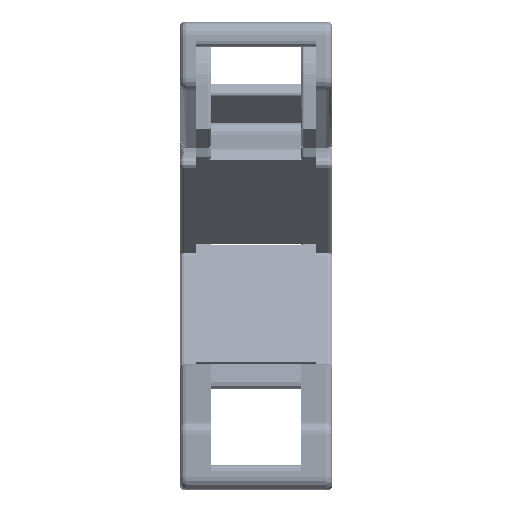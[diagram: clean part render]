
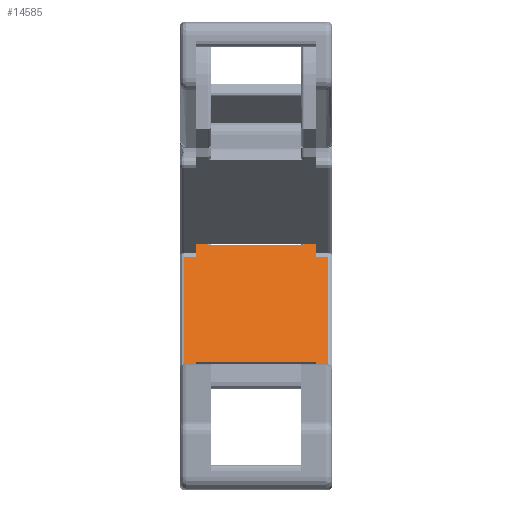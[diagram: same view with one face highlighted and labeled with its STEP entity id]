
A CAD part, left-side view. The second image highlights one B-rep face of the part: STEP entity #14585.
In plain terms, the highlighted planar face has unit normal (-0.934, 0, 0.358).
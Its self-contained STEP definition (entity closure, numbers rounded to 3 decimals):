
#2842=PLANE('',#178081);
#14585=ADVANCED_FACE('',(#26892),#2842,.F.);
#26892=FACE_OUTER_BOUND('',#35845,.T.);
#35845=EDGE_LOOP('',(#52403,#52404,#52405,#52406,#52407,#52408,#52409,#52410,
#52411,#52412,#52413,#52414,#52415,#52416,#52417,#52418));
#52403=ORIENTED_EDGE('',*,*,#118032,.T.);
#52404=ORIENTED_EDGE('',*,*,#118033,.T.);
#52405=ORIENTED_EDGE('',*,*,#118028,.F.);
#52406=ORIENTED_EDGE('',*,*,#118034,.T.);
#52407=ORIENTED_EDGE('',*,*,#118035,.F.);
#52408=ORIENTED_EDGE('',*,*,#118036,.F.);
#52409=ORIENTED_EDGE('',*,*,#118037,.T.);
#52410=ORIENTED_EDGE('',*,*,#118038,.T.);
#52411=ORIENTED_EDGE('',*,*,#118039,.T.);
#52412=ORIENTED_EDGE('',*,*,#118008,.F.);
#52413=ORIENTED_EDGE('',*,*,#118040,.T.);
#52414=ORIENTED_EDGE('',*,*,#118041,.T.);
#52415=ORIENTED_EDGE('',*,*,#118042,.T.);
#52416=ORIENTED_EDGE('',*,*,#118043,.T.);
#52417=ORIENTED_EDGE('',*,*,#118044,.T.);
#52418=ORIENTED_EDGE('',*,*,#118045,.F.);
#101583=VERTEX_POINT('',#238716);
#101584=VERTEX_POINT('',#238717);
#101602=VERTEX_POINT('',#238758);
#101603=VERTEX_POINT('',#238759);
#101606=VERTEX_POINT('',#238767);
#101607=VERTEX_POINT('',#238768);
#101608=VERTEX_POINT('',#238771);
#101609=VERTEX_POINT('',#238773);
#101610=VERTEX_POINT('',#238775);
#101611=VERTEX_POINT('',#238777);
#101612=VERTEX_POINT('',#238779);
#101613=VERTEX_POINT('',#238782);
#101614=VERTEX_POINT('',#238784);
#101615=VERTEX_POINT('',#238786);
#101616=VERTEX_POINT('',#238788);
#101617=VERTEX_POINT('',#238790);
#118008=EDGE_CURVE('',#101583,#101584,#142751,.T.);
#118028=EDGE_CURVE('',#101602,#101603,#142762,.T.);
#118032=EDGE_CURVE('',#101606,#101607,#142764,.T.);
#118033=EDGE_CURVE('',#101607,#101603,#142765,.T.);
#118034=EDGE_CURVE('',#101602,#101608,#142766,.T.);
#118035=EDGE_CURVE('',#101609,#101608,#142767,.T.);
#118036=EDGE_CURVE('',#101610,#101609,#142768,.T.);
#118037=EDGE_CURVE('',#101610,#101611,#142769,.T.);
#118038=EDGE_CURVE('',#101611,#101612,#142770,.T.);
#118039=EDGE_CURVE('',#101612,#101584,#142771,.T.);
#118040=EDGE_CURVE('',#101583,#101613,#142772,.T.);
#118041=EDGE_CURVE('',#101613,#101614,#142773,.T.);
#118042=EDGE_CURVE('',#101614,#101615,#142774,.T.);
#118043=EDGE_CURVE('',#101615,#101616,#142775,.T.);
#118044=EDGE_CURVE('',#101616,#101617,#142776,.T.);
#118045=EDGE_CURVE('',#101606,#101617,#142777,.T.);
#142751=LINE('',#238715,#159843);
#142762=LINE('',#238757,#159854);
#142764=LINE('',#238766,#159856);
#142765=LINE('',#238769,#159857);
#142766=LINE('',#238770,#159858);
#142767=LINE('',#238772,#159859);
#142768=LINE('',#238774,#159860);
#142769=LINE('',#238776,#159861);
#142770=LINE('',#238778,#159862);
#142771=LINE('',#238780,#159863);
#142772=LINE('',#238781,#159864);
#142773=LINE('',#238783,#159865);
#142774=LINE('',#238785,#159866);
#142775=LINE('',#238787,#159867);
#142776=LINE('',#238789,#159868);
#142777=LINE('',#238791,#159869);
#159843=VECTOR('',#192129,1.);
#159854=VECTOR('',#192164,1.);
#159856=VECTOR('',#192172,1.);
#159857=VECTOR('',#192173,1.);
#159858=VECTOR('',#192174,1.);
#159859=VECTOR('',#192175,1.);
#159860=VECTOR('',#192176,1.);
#159861=VECTOR('',#192177,1.);
#159862=VECTOR('',#192178,1.);
#159863=VECTOR('',#192179,1.);
#159864=VECTOR('',#192180,1.);
#159865=VECTOR('',#192181,1.);
#159866=VECTOR('',#192182,1.);
#159867=VECTOR('',#192183,1.);
#159868=VECTOR('',#192184,1.);
#159869=VECTOR('',#192185,1.);
#178081=AXIS2_PLACEMENT_3D('',#238792,#192186,#192187);
#192129=DIRECTION('',(-0.358,0.,-0.934));
#192164=DIRECTION('',(0.,1.,0.));
#192172=DIRECTION('',(0.,1.,0.));
#192173=DIRECTION('',(-0.358,0.,-0.934));
#192174=DIRECTION('',(0.358,0.,0.934));
#192175=DIRECTION('',(0.,1.,0.));
#192176=DIRECTION('',(0.358,0.,0.934));
#192177=DIRECTION('',(0.,-1.,0.));
#192178=DIRECTION('',(0.358,0.,0.934));
#192179=DIRECTION('',(0.,1.,0.));
#192180=DIRECTION('',(0.,1.,0.));
#192181=DIRECTION('',(-0.358,0.,-0.934));
#192182=DIRECTION('',(0.,1.,0.));
#192183=DIRECTION('',(0.358,0.,0.934));
#192184=DIRECTION('',(0.,1.,0.));
#192185=DIRECTION('',(0.358,0.,0.934));
#192186=DIRECTION('',(0.934,0.,-0.358));
#192187=DIRECTION('',(0.,1.,0.));
#238715=CARTESIAN_POINT('',(1183.788,27608.645,8.937));
#238716=CARTESIAN_POINT('',(1184.143,27608.645,9.862));
#238717=CARTESIAN_POINT('',(1183.649,27608.645,8.574));
#238757=CARTESIAN_POINT('',(1179.134,27312.345,-3.211));
#238758=CARTESIAN_POINT('',(1179.134,27618.145,-3.211));
#238759=CARTESIAN_POINT('',(1179.134,27619.145,-3.211));
#238766=CARTESIAN_POINT('',(1183.649,27619.445,8.574));
#238767=CARTESIAN_POINT('',(1183.649,27618.145,8.574));
#238768=CARTESIAN_POINT('',(1183.649,27619.145,8.574));
#238769=CARTESIAN_POINT('',(1179.134,27619.145,-3.211));
#238770=CARTESIAN_POINT('',(1183.788,27618.145,8.937));
#238771=CARTESIAN_POINT('',(1180.444,27618.145,0.207));
#238772=CARTESIAN_POINT('',(1180.444,27312.345,0.207));
#238773=CARTESIAN_POINT('',(1180.444,27608.645,0.207));
#238774=CARTESIAN_POINT('',(1183.788,27608.645,8.937));
#238775=CARTESIAN_POINT('',(1179.134,27608.645,-3.211));
#238776=CARTESIAN_POINT('',(1179.134,27914.445,-3.211));
#238777=CARTESIAN_POINT('',(1179.134,27607.645,-3.211));
#238778=CARTESIAN_POINT('',(1183.649,27607.645,8.574));
#238779=CARTESIAN_POINT('',(1183.649,27607.645,8.574));
#238780=CARTESIAN_POINT('',(1183.649,27608.645,8.574));
#238781=CARTESIAN_POINT('',(1184.143,27312.345,9.862));
#238782=CARTESIAN_POINT('',(1184.143,27609.545,9.862));
#238783=CARTESIAN_POINT('',(1183.788,27609.545,8.937));
#238784=CARTESIAN_POINT('',(1183.991,27609.545,9.466));
#238785=CARTESIAN_POINT('',(1183.991,27312.345,9.466));
#238786=CARTESIAN_POINT('',(1183.991,27617.245,9.466));
#238787=CARTESIAN_POINT('',(1183.788,27617.245,8.937));
#238788=CARTESIAN_POINT('',(1184.143,27617.245,9.862));
#238789=CARTESIAN_POINT('',(1184.143,27312.345,9.862));
#238790=CARTESIAN_POINT('',(1184.143,27618.145,9.862));
#238791=CARTESIAN_POINT('',(1183.788,27618.145,8.937));
#238792=CARTESIAN_POINT('',(1183.788,27312.345,8.937));
